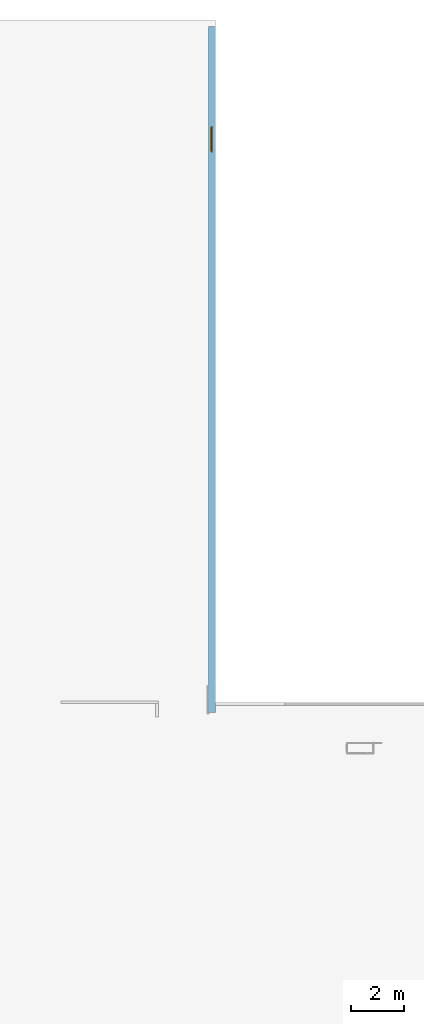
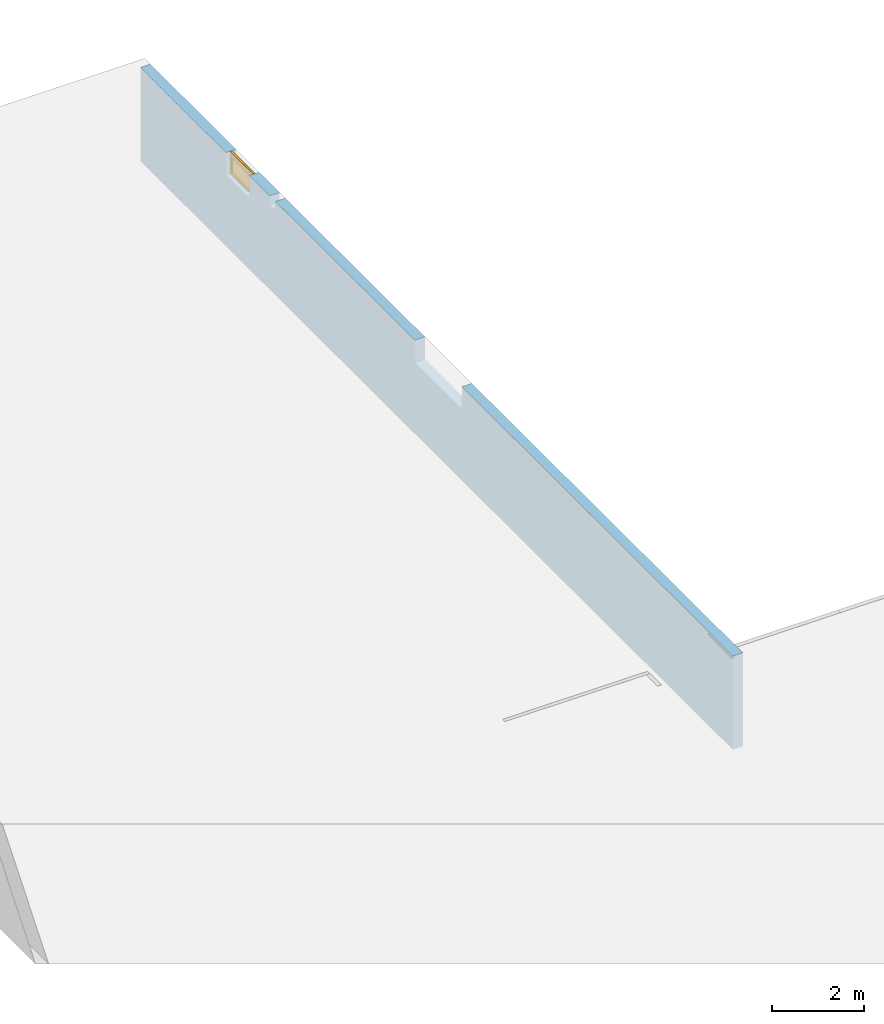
# One storey, part 9 of 10: 1 window, 3 openings, plus 1 element that does not belong to this part.
"""IFC2X3 building model written with IfcOpenShell, lengths in millimetres."""

from ifc_helpers import new_model, entity, si_unit, converted_unit, frame, frame_2d, origin, origin_with_axes, place, context, subcontext, project, spatial, rectangle, extrude, faceted_brep, material, layer, layer_set, layer_usage, type_object, element, fill, save


model = new_model("IFC2X3")

# Units and contexts
model_context = context("Model", 3, precision=1e-05, world=origin())
body_context = subcontext(model_context, "Body", "Model", "MODEL_VIEW")
ifc_project = project(units=[si_unit("LENGTHUNIT", "METRE", prefix="MILLI"), converted_unit("PLANEANGLEUNIT", "DEGREE", entity("IfcPlaneAngleMeasure", 0.0174532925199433), si_unit("PLANEANGLEUNIT", "RADIAN"), dimensions=[0, 0, 0, 0, 0, 0, 0]), si_unit("AREAUNIT", "SQUARE_METRE"), si_unit("VOLUMEUNIT", "CUBIC_METRE")], contexts=[model_context])

# Building, storey
building_placement = place(None, origin())
building = spatial("IfcBuilding", under=ifc_project, at=building_placement, Name="Gebäude", CompositionType="ELEMENT")
storey_placement = place(building_placement, frame((0.0, 0.0, -3205.0), z_axis=(0.0, 0.0, 1.0), x_axis=(1.0, 0.0, 0.0)))
storey = spatial("IfcBuildingStorey", under=building, at=storey_placement, Name="KG.- Grundriss", CompositionType="ELEMENT", Elevation=-3205.0)

# Wall, openings, window
ifc_material_1 = material(Name="Stb-Wand")
ifc_layer = layer(ifc_material_1, 250.0)
ifc_layer_set = layer_set([ifc_layer])
ifc_layer_usage = layer_usage(ifc_layer_set, "AXIS2", "POSITIVE", 0.0)
wall_placement = place(storey_placement, frame((230107.6842014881, 153405.0661829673, 3205.0), z_axis=(0.0, 0.0, 1.0), x_axis=(-6.755241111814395e-15, -1.0, 0.0)))
wall = element("IfcWallStandardCase", 1, at=wall_placement, inside=storey, material=ifc_layer_usage, Name="<Unnamed Element>", context=body_context, shape_type="SweptSolid", body=[
    extrude(rectangle(XDim=25850.00000000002, YDim=250.0, at=frame_2d((12925.00000000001, 125.0), x_axis=(1.0, 0.0))), origin_with_axes(), (0.0, 0.0, 1.0), 2500.0),
])
opening_1_placement = place(wall_placement, frame((3740.0, 0.0, 1900.0), z_axis=(0.0, 1.0, 0.0), x_axis=(0.0, 0.0, 1.0)))
opening_1 = element("IfcOpeningElement", 2, at=opening_1_placement, cuts=wall, Name="Fensteröffnung", ObjectType="Opening", context=body_context, shape_type="SweptSolid", body=[
    extrude(rectangle(XDim=600.0, YDim=1010.0, at=frame_2d((300.0, 505.0), x_axis=(1.0, 0.0))), origin_with_axes(), (0.0, 0.0, 1.0), 250.0),
])
opening_2_placement = place(wall_placement, frame((11975.00000000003, -1.164153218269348e-10, 1900.0), z_axis=(0.0, 1.0, 0.0), x_axis=(0.0, 0.0, 1.0)))
element("IfcOpeningElement", 3, at=opening_2_placement, cuts=wall, Name="Fensteröffnung", ObjectType="Opening", context=body_context, shape_type="SweptSolid", body=[
    extrude(rectangle(XDim=600.0, YDim=2050.0, at=frame_2d((300.0, 1025.0), x_axis=(1.0, 0.0))), origin_with_axes(), (0.0, 0.0, 1.0), 250.0),
])
opening_3_placement = place(wall_placement, frame((5640.000003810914, 1.490174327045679e-06, 2250.0), z_axis=(0.0, 1.0, 0.0), x_axis=(0.0, 0.0, 1.0)))
element("IfcOpeningElement", 4, at=opening_3_placement, cuts=wall, Name="Wanddurchbruch", ObjectType="Recess", context=body_context, shape_type="SweptSolid", body=[
    extrude(rectangle(XDim=250.0, YDim=250.0, at=frame_2d((125.0, 125.0), x_axis=(1.0, 0.0))), origin_with_axes(), (0.0, 0.0, 1.0), 249.999999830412),
])
ifc_material_2 = material()
window_style = type_object("IfcWindowStyle", Name="Fenster", ConstructionType="NOTDEFINED", OperationType="SINGLE_PANEL", ParameterTakesPrecedence=True, Sizeable=False)
window_placement = place(opening_1_placement, frame((0.0, 1010.0, 150.0), z_axis=(1.0, 0.0, 0.0), x_axis=(0.0, -1.0, 0.0)))
window = element("IfcWindow", 5, at=window_placement, inside=storey, type_object=window_style, material=ifc_material_2, Name="Fenster", OverallHeight=600.0, OverallWidth=1010.0, context=body_context, shape_type="Brep", body=[
    faceted_brep([(50.00000000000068, 49.99999999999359, 0.0), (50.00000000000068, 49.99999999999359, 600.0), (6.821210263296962e-13, 49.99999999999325, 600.0), (6.821210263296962e-13, 49.99999999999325, 0.0), (1.023181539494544e-12, -6.750155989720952e-12, 0.0), (1.023181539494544e-12, -6.750155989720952e-12, 600.0), (50.00000000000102, -6.409095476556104e-12, 600.0), (50.00000000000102, -6.409095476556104e-12, 0.0), (6.821210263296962e-13, 49.99999999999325, 0.0), (1.023181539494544e-12, -6.750155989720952e-12, 0.0), (50.00000000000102, -6.409095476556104e-12, 0.0), (50.00000000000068, 49.99999999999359, 0.0), (6.821210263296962e-13, 49.99999999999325, 600.0), (1.023181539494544e-12, -6.750155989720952e-12, 600.0), (1.023181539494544e-12, -6.750155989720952e-12, 0.0), (6.821210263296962e-13, 49.99999999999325, 0.0), (50.00000000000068, 49.99999999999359, 600.0), (50.00000000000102, -6.409095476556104e-12, 600.0), (1.023181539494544e-12, -6.750155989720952e-12, 600.0), (6.821210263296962e-13, 49.99999999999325, 600.0), (50.00000000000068, 49.99999999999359, 0.0), (50.00000000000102, -6.409095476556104e-12, 0.0), (50.00000000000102, -6.409095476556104e-12, 600.0), (50.00000000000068, 49.99999999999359, 600.0)], [[[0, 1, 2, 3]], [[4, 5, 6, 7]], [[8, 9, 10, 11]], [[12, 13, 14, 15]], [[16, 17, 18, 19]], [[20, 21, 22, 23]]], orient=[[False], [False], [False], [False], [False], [False]]),
    faceted_brep([(960.0000000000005, 49.99999999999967, 600.0), (960.0000000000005, 49.99999999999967, 0.0), (1010.000000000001, 50.0, 0.0), (1010.000000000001, 50.0, 600.0), (1010.000000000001, 0.0, 600.0), (1010.000000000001, 0.0, 0.0), (960.0000000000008, -3.339550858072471e-13, 0.0), (960.0000000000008, -3.339550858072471e-13, 600.0), (1010.000000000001, 50.0, 600.0), (1010.000000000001, 0.0, 600.0), (960.0000000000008, -3.339550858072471e-13, 600.0), (960.0000000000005, 49.99999999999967, 600.0), (1010.000000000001, 50.0, 0.0), (1010.000000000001, 0.0, 0.0), (1010.000000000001, 0.0, 600.0), (1010.000000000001, 50.0, 600.0), (960.0000000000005, 49.99999999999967, 0.0), (960.0000000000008, -3.339550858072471e-13, 0.0), (1010.000000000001, 0.0, 0.0), (1010.000000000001, 50.0, 0.0), (960.0000000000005, 49.99999999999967, 600.0), (960.0000000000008, -3.339550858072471e-13, 600.0), (960.0000000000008, -3.339550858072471e-13, 0.0), (960.0000000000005, 49.99999999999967, 0.0)], [[[0, 1, 2, 3]], [[4, 5, 6, 7]], [[8, 9, 10, 11]], [[12, 13, 14, 15]], [[16, 17, 18, 19]], [[20, 21, 22, 23]]], orient=[[False], [False], [False], [False], [False], [False]]),
    faceted_brep([(960.0000000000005, 49.99999999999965, 50.0), (50.00000000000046, 49.99999999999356, 50.0), (50.00000000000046, 49.99999999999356, 0.0), (960.0000000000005, 49.99999999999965, 0.0), (960.0000000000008, -3.481659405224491e-13, 0.0), (50.0000000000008, -6.437517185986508e-12, 0.0), (50.0000000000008, -6.437517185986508e-12, 50.0), (960.0000000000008, -3.481659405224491e-13, 50.0), (960.0000000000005, 49.99999999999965, 0.0), (960.0000000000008, -3.481659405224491e-13, 0.0), (960.0000000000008, -3.481659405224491e-13, 50.0), (960.0000000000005, 49.99999999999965, 50.0), (50.00000000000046, 49.99999999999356, 0.0), (50.0000000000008, -6.437517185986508e-12, 0.0), (960.0000000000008, -3.481659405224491e-13, 0.0), (960.0000000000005, 49.99999999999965, 0.0), (50.00000000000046, 49.99999999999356, 50.0), (50.0000000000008, -6.437517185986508e-12, 50.0), (50.0000000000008, -6.437517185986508e-12, 0.0), (50.00000000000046, 49.99999999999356, 0.0), (960.0000000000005, 49.99999999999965, 50.0), (960.0000000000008, -3.481659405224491e-13, 50.0), (50.0000000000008, -6.437517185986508e-12, 50.0), (50.00000000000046, 49.99999999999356, 50.0)], [[[0, 1, 2, 3]], [[4, 5, 6, 7]], [[8, 9, 10, 11]], [[12, 13, 14, 15]], [[16, 17, 18, 19]], [[20, 21, 22, 23]]], orient=[[False], [False], [False], [False], [False], [False]]),
    faceted_brep([(50.00000000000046, 49.99999999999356, 550.0), (960.0000000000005, 49.99999999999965, 550.0), (960.0000000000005, 49.99999999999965, 600.0), (50.00000000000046, 49.99999999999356, 600.0), (50.0000000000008, -6.437517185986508e-12, 600.0), (960.0000000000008, -3.481659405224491e-13, 600.0), (960.0000000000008, -3.481659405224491e-13, 550.0), (50.0000000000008, -6.437517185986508e-12, 550.0), (50.00000000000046, 49.99999999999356, 600.0), (50.0000000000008, -6.437517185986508e-12, 600.0), (50.0000000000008, -6.437517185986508e-12, 550.0), (50.00000000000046, 49.99999999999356, 550.0), (960.0000000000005, 49.99999999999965, 600.0), (960.0000000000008, -3.481659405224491e-13, 600.0), (50.0000000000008, -6.437517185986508e-12, 600.0), (50.00000000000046, 49.99999999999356, 600.0), (960.0000000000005, 49.99999999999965, 550.0), (960.0000000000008, -3.481659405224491e-13, 550.0), (960.0000000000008, -3.481659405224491e-13, 600.0), (960.0000000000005, 49.99999999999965, 600.0), (50.00000000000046, 49.99999999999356, 550.0), (50.0000000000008, -6.437517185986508e-12, 550.0), (960.0000000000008, -3.481659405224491e-13, 550.0), (960.0000000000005, 49.99999999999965, 550.0)], [[[0, 1, 2, 3]], [[4, 5, 6, 7]], [[8, 9, 10, 11]], [[12, 13, 14, 15]], [[16, 17, 18, 19]], [[20, 21, 22, 23]]], orient=[[False], [False], [False], [False], [False], [False]]),
    faceted_brep([(960.0000000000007, 24.99999999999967, 550.0), (960.0000000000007, 24.99999999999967, 50.0), (910.0000000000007, 24.99999999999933, 50.0), (910.0000000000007, 24.99999999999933, 550.0), (910.0000000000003, 74.99999999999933, 550.0), (910.0000000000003, 74.99999999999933, 50.0), (960.0000000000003, 74.99999999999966, 50.0), (960.0000000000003, 74.99999999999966, 550.0), (910.0000000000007, 24.99999999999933, 550.0), (910.0000000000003, 74.99999999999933, 550.0), (960.0000000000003, 74.99999999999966, 550.0), (960.0000000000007, 24.99999999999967, 550.0), (910.0000000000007, 24.99999999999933, 50.0), (910.0000000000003, 74.99999999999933, 50.0), (910.0000000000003, 74.99999999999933, 550.0), (910.0000000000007, 24.99999999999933, 550.0), (960.0000000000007, 24.99999999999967, 50.0), (960.0000000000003, 74.99999999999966, 50.0), (910.0000000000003, 74.99999999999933, 50.0), (910.0000000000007, 24.99999999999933, 50.0), (960.0000000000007, 24.99999999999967, 550.0), (960.0000000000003, 74.99999999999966, 550.0), (960.0000000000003, 74.99999999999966, 50.0), (960.0000000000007, 24.99999999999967, 50.0)], [[[0, 1, 2, 3]], [[4, 5, 6, 7]], [[8, 9, 10, 11]], [[12, 13, 14, 15]], [[16, 17, 18, 19]], [[20, 21, 22, 23]]], orient=[[False], [False], [False], [False], [False], [False]]),
    faceted_brep([(50.00000000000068, 24.9999999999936, 50.0), (50.00000000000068, 24.9999999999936, 550.0), (100.0000000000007, 24.99999999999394, 550.0), (100.0000000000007, 24.99999999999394, 50.0), (100.0000000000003, 74.99999999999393, 50.0), (100.0000000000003, 74.99999999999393, 550.0), (50.00000000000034, 74.9999999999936, 550.0), (50.00000000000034, 74.9999999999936, 50.0), (100.0000000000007, 24.99999999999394, 50.0), (100.0000000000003, 74.99999999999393, 50.0), (50.00000000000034, 74.9999999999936, 50.0), (50.00000000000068, 24.9999999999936, 50.0), (100.0000000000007, 24.99999999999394, 550.0), (100.0000000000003, 74.99999999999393, 550.0), (100.0000000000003, 74.99999999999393, 50.0), (100.0000000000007, 24.99999999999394, 50.0), (50.00000000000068, 24.9999999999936, 550.0), (50.00000000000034, 74.9999999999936, 550.0), (100.0000000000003, 74.99999999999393, 550.0), (100.0000000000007, 24.99999999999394, 550.0), (50.00000000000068, 24.9999999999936, 50.0), (50.00000000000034, 74.9999999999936, 50.0), (50.00000000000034, 74.9999999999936, 550.0), (50.00000000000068, 24.9999999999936, 550.0)], [[[0, 1, 2, 3]], [[4, 5, 6, 7]], [[8, 9, 10, 11]], [[12, 13, 14, 15]], [[16, 17, 18, 19]], [[20, 21, 22, 23]]], orient=[[False], [False], [False], [False], [False], [False]]),
    faceted_brep([(910.0000000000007, 24.99999999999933, 50.0), (100.0000000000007, 24.9999999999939, 50.0), (100.0000000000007, 24.9999999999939, 100.0), (910.0000000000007, 24.99999999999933, 100.0), (910.0000000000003, 74.99999999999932, 100.0), (100.0000000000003, 74.9999999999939, 100.0), (100.0000000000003, 74.9999999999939, 50.0), (910.0000000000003, 74.99999999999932, 50.0), (910.0000000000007, 24.99999999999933, 100.0), (910.0000000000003, 74.99999999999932, 100.0), (910.0000000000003, 74.99999999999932, 50.0), (910.0000000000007, 24.99999999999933, 50.0), (100.0000000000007, 24.9999999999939, 100.0), (100.0000000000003, 74.9999999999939, 100.0), (910.0000000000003, 74.99999999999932, 100.0), (910.0000000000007, 24.99999999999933, 100.0), (100.0000000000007, 24.9999999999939, 50.0), (100.0000000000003, 74.9999999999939, 50.0), (100.0000000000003, 74.9999999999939, 100.0), (100.0000000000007, 24.9999999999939, 100.0), (910.0000000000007, 24.99999999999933, 50.0), (910.0000000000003, 74.99999999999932, 50.0), (100.0000000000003, 74.9999999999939, 50.0), (100.0000000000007, 24.9999999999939, 50.0)], [[[0, 1, 2, 3]], [[4, 5, 6, 7]], [[8, 9, 10, 11]], [[12, 13, 14, 15]], [[16, 17, 18, 19]], [[20, 21, 22, 23]]], orient=[[False], [False], [False], [False], [False], [False]]),
    faceted_brep([(100.0000000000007, 24.9999999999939, 550.0), (910.0000000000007, 24.99999999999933, 550.0), (910.0000000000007, 24.99999999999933, 500.0), (100.0000000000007, 24.9999999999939, 500.0), (100.0000000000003, 74.9999999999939, 500.0), (910.0000000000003, 74.99999999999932, 500.0), (910.0000000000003, 74.99999999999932, 550.0), (100.0000000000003, 74.9999999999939, 550.0), (100.0000000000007, 24.9999999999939, 500.0), (100.0000000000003, 74.9999999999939, 500.0), (100.0000000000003, 74.9999999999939, 550.0), (100.0000000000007, 24.9999999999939, 550.0), (910.0000000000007, 24.99999999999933, 500.0), (910.0000000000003, 74.99999999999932, 500.0), (100.0000000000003, 74.9999999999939, 500.0), (100.0000000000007, 24.9999999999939, 500.0), (910.0000000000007, 24.99999999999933, 550.0), (910.0000000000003, 74.99999999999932, 550.0), (910.0000000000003, 74.99999999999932, 500.0), (910.0000000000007, 24.99999999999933, 500.0), (100.0000000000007, 24.9999999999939, 550.0), (100.0000000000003, 74.9999999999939, 550.0), (910.0000000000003, 74.99999999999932, 550.0), (910.0000000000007, 24.99999999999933, 550.0)], [[[0, 1, 2, 3]], [[4, 5, 6, 7]], [[8, 9, 10, 11]], [[12, 13, 14, 15]], [[16, 17, 18, 19]], [[20, 21, 22, 23]]], orient=[[False], [False], [False], [False], [False], [False]]),
    faceted_brep([(910.0000000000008, 49.99999999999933, 500.0), (100.0000000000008, 49.99999999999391, 500.0), (100.0000000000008, 49.99999999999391, 100.0), (910.0000000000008, 49.99999999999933, 100.0), (910.0000000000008, 48.99999999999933, 500.0), (910.0000000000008, 48.99999999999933, 100.0), (100.0000000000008, 48.99999999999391, 100.0), (100.0000000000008, 48.99999999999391, 500.0), (910.0000000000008, 49.99999999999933, 500.0), (910.0000000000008, 48.99999999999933, 500.0), (100.0000000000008, 48.99999999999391, 500.0), (100.0000000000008, 49.99999999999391, 500.0), (100.0000000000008, 49.99999999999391, 500.0), (100.0000000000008, 48.99999999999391, 500.0), (100.0000000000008, 48.99999999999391, 100.0), (100.0000000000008, 49.99999999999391, 100.0), (100.0000000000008, 49.99999999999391, 100.0), (100.0000000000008, 48.99999999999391, 100.0), (910.0000000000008, 48.99999999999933, 100.0), (910.0000000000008, 49.99999999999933, 100.0), (910.0000000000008, 49.99999999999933, 100.0), (910.0000000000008, 48.99999999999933, 100.0), (910.0000000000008, 48.99999999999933, 500.0), (910.0000000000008, 49.99999999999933, 500.0)], [[[0, 1, 2, 3]], [[4, 5, 6, 7]], [[8, 9, 10, 11]], [[12, 13, 14, 15]], [[16, 17, 18, 19]], [[20, 21, 22, 23]]], orient=[[False], [False], [False], [False], [False], [False]]),
])
fill(opening_1, window)

save(model, "model.ifc")
